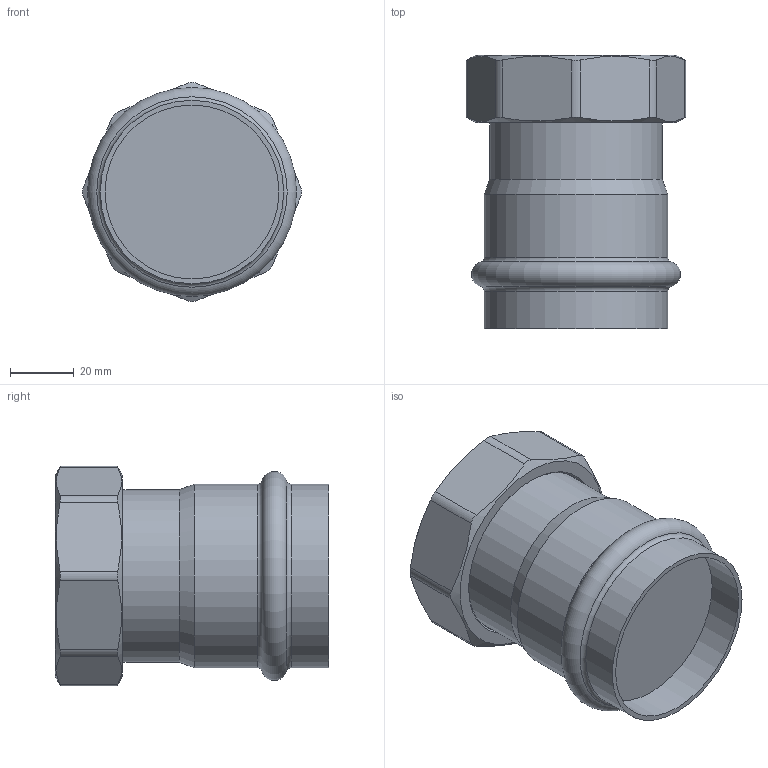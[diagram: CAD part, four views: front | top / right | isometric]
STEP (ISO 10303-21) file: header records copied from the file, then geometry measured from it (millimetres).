
FILE_DESCRIPTION(('STEP AP203'), '1');
FILE_NAME('VTi.908.I.005409', '', ('UNSPECIFIED'), ('UNSPECIFIED'), 'C3D Converter', 'C3D Toolkit', '');
FILE_SCHEMA(('CONFIG_CONTROL_DESIGN'));
Length unit declared in the file: millimetre
Bounding box: 68.61 x 85.5 x 68.61 mm (x, y, z)
Volume: 180329.9 mm3; surface area: 28404.4 mm2
Topology: 1 solids, 1 shells, 36 faces, 82 edges, 52 vertices
Faces by surface type: plane 14, cylinder 14, cone 5, torus 3
Full cylindrical faces by diameter (mm): 54 x1, 54.4 x1, 54.5 x1, 56.657 x1, 57.4 x2
Entity records: 2254 total; most frequent: CARTESIAN_POINT 1509, ORIENTED_EDGE 136, DIRECTION 126, EDGE_CURVE 68, AXIS2_PLACEMENT_3D 55, EDGE_LOOP 54, VERTEX_POINT 52, ADVANCED_FACE 36
